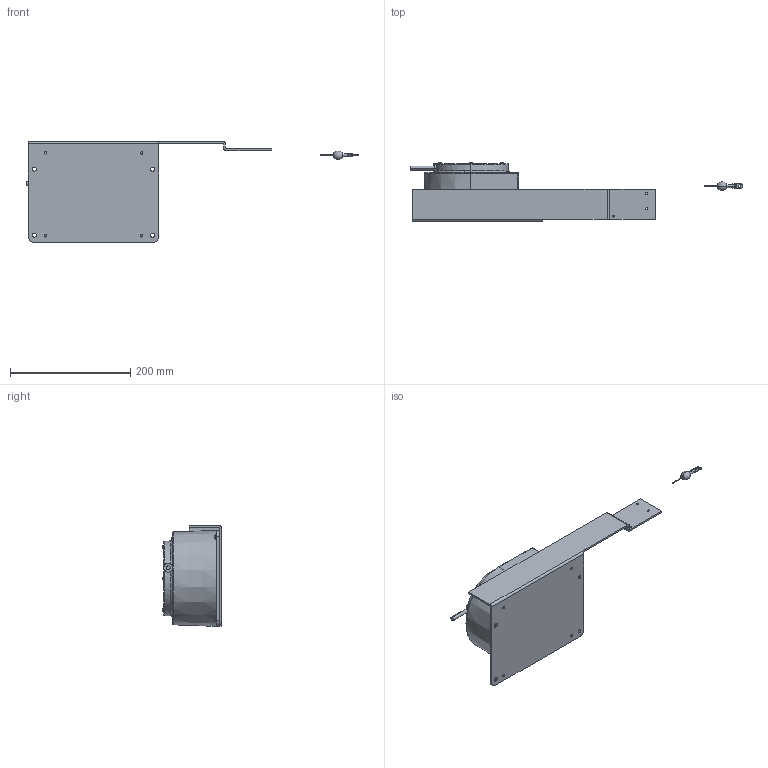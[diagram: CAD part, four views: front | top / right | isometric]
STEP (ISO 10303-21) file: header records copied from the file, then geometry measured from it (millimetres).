
FILE_DESCRIPTION (( 'STEP AP214' ), '1' );
FILE_NAME ('DL-10_Assem2.STEP', '2024-07-18T05:35:51', ( '' ), ( '' ), 'SwSTEP 2.0', 'SolidWorks 2023', '' );
FILE_SCHEMA (( 'AUTOMOTIVE_DESIGN' ));
Length unit declared in the file: millimetre
Products named in the file (11): SCREW M3 X6 MM; DL-10_Assem0; DL-10_Assem1; DL-10_Part1; DL-10_Assem2; DL-10フック_Assem; DL-10_Part2; DL10_固定パーツ; SCREW M4 X8 MM; DL-10_Part3; DL-10_Part4
Assembly tree (18 placements, depth 4):
  DL-10_Assem2
    DL-10_Assem1
      DL-10_Assem0
        DL-10_Part1
        DL-10_Part2
        SCREW M3 X6 MM  x6
      DL-10フック_Assem
        DL-10_Part3
        DL-10_Part4
    DL10_固定パーツ
    SCREW M4 X8 MM  x4
Bounding box: 552.74 x 98.2 x 168 mm (x, y, z)
Volume: 2121648.9 mm3; surface area: 233807.7 mm2
Topology: 16 solids, 16 shells, 403 faces, 1126 edges, 767 vertices
Faces by surface type: plane 182, cylinder 103, cone 50, bspline 41, torus 27
Entity records: 8476 total; most frequent: CARTESIAN_POINT 2333, DIRECTION 1268, ORIENTED_EDGE 1182, EDGE_CURVE 591, AXIS2_PLACEMENT_3D 486, VERTEX_POINT 387, LINE 296, VECTOR 296
